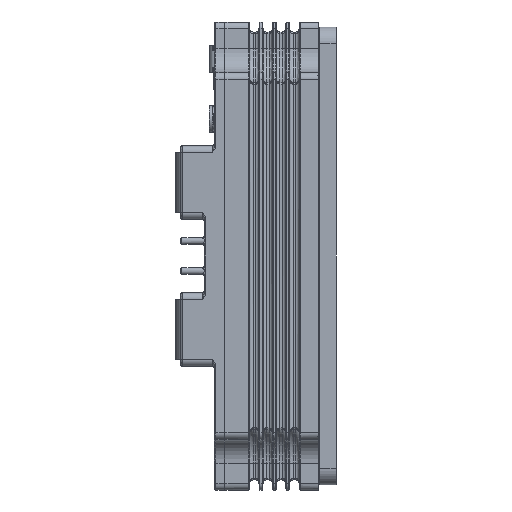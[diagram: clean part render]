
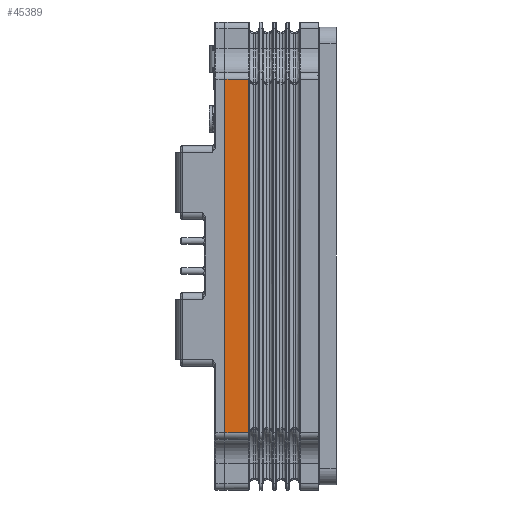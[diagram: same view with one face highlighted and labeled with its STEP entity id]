
A CAD part, left-side view. The second image highlights one B-rep face of the part: STEP entity #45389.
In plain terms, the highlighted planar face has unit normal (-1, 0, 0).
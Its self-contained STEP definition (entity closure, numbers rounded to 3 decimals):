
#38947 = CARTESIAN_POINT ( 'NONE',  ( -95., 33.3, 52.9 ) ) ;
#39181 = CARTESIAN_POINT ( 'NONE',  ( -95., 33.3, -52.9 ) ) ;
#39926 = CARTESIAN_POINT ( 'NONE',  ( -95., 33.3, 54.9 ) ) ;
#40021 = DIRECTION ( 'NONE',  ( 0., 0., -1. ) ) ;
#40022 = VECTOR ( 'NONE', #40021, 1000. ) ;
#40037 = LINE ( 'NONE', #39926, #40022 ) ;
#43839 = VERTEX_POINT ( 'NONE', #38947 ) ;
#43842 = VERTEX_POINT ( 'NONE', #39181 ) ;
#44030 = EDGE_CURVE ( 'NONE', #43839, #43842, #40037, .T. ) ;
#45282 = ORIENTED_EDGE ( 'NONE', *, *, #45564, .T. ) ;
#45362 = EDGE_LOOP ( 'NONE', ( #45282, #45568, #45566, #45405 ) ) ;
#45389 = ADVANCED_FACE ( 'NONE', ( #45621 ), #45731, .T. ) ;
#45405 = ORIENTED_EDGE ( 'NONE', *, *, #45571, .T. ) ;
#45409 = VERTEX_POINT ( 'NONE', #45888 ) ;
#45414 = VERTEX_POINT ( 'NONE', #46016 ) ;
#45455 = EDGE_CURVE ( 'NONE', #43842, #45414, #45973, .T. ) ;
#45558 = AXIS2_PLACEMENT_3D ( 'NONE', #45869, #45866, #45862 ) ;
#45564 = EDGE_CURVE ( 'NONE', #45409, #43839, #46506, .T. ) ;
#45566 = ORIENTED_EDGE ( 'NONE', *, *, #45455, .T. ) ;
#45568 = ORIENTED_EDGE ( 'NONE', *, *, #44030, .T. ) ;
#45571 = EDGE_CURVE ( 'NONE', #45414, #45409, #46700, .T. ) ;
#45621 = FACE_OUTER_BOUND ( 'NONE', #45362, .T. ) ;
#45731 = PLANE ( 'NONE',  #45558 ) ;
#45862 = DIRECTION ( 'NONE',  ( 0., 0., 1. ) ) ;
#45866 = DIRECTION ( 'NONE',  ( -1., 0., 0. ) ) ;
#45869 = CARTESIAN_POINT ( 'NONE',  ( -95., 5.4, 54.9 ) ) ;
#45888 = CARTESIAN_POINT ( 'NONE',  ( -95., 26.19, 52.9 ) ) ;
#45972 = CARTESIAN_POINT ( 'NONE',  ( -95., 5.4, -52.9 ) ) ;
#45973 = LINE ( 'NONE', #45972, #45983 ) ;
#45983 = VECTOR ( 'NONE', #46092, 1000. ) ;
#46016 = CARTESIAN_POINT ( 'NONE',  ( -95., 26.19, -52.9 ) ) ;
#46092 = DIRECTION ( 'NONE',  ( 0., -1., 0. ) ) ;
#46488 = CARTESIAN_POINT ( 'NONE',  ( -95., 26.19, 52.9 ) ) ;
#46506 = LINE ( 'NONE', #46605, #46809 ) ;
#46605 = CARTESIAN_POINT ( 'NONE',  ( -95., 5.4, 52.9 ) ) ;
#46700 = LINE ( 'NONE', #46488, #46792 ) ;
#46790 = DIRECTION ( 'NONE',  ( 0., 0., 1. ) ) ;
#46792 = VECTOR ( 'NONE', #46790, 1000. ) ;
#46807 = DIRECTION ( 'NONE',  ( 0., 1., 0. ) ) ;
#46809 = VECTOR ( 'NONE', #46807, 1000. ) ;
